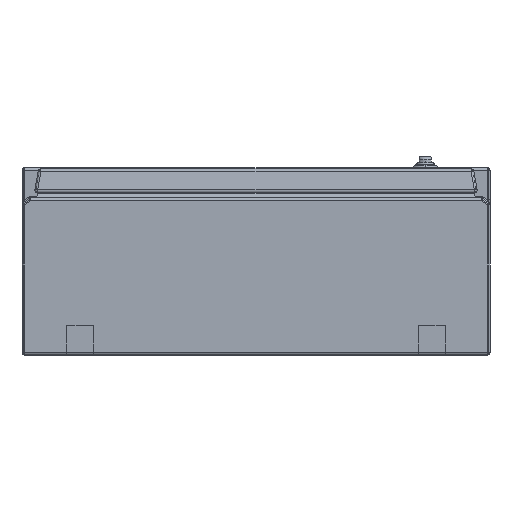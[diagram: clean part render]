
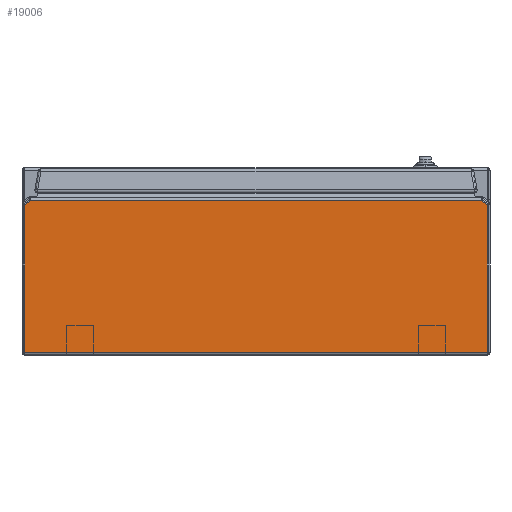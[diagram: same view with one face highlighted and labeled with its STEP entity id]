
A CAD part, front view. The second image highlights one B-rep face of the part: STEP entity #19006.
In plain terms, the highlighted planar face has unit normal (0, -1, 0).
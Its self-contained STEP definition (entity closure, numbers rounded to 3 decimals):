
#86 = ORIENTED_EDGE ( 'NONE', *, *, #1234, .T. ) ;
#654 = LINE ( 'NONE', #10616, #24679 ) ;
#1234 = EDGE_CURVE ( 'NONE', #31828, #7293, #8972, .T. ) ;
#1626 = ORIENTED_EDGE ( 'NONE', *, *, #15396, .T. ) ;
#2430 = DIRECTION ( 'NONE',  ( 1., 0., 0. ) ) ;
#4584 = CARTESIAN_POINT ( 'NONE',  ( 240.485, -247.5, -35. ) ) ;
#4678 = CARTESIAN_POINT ( 'NONE',  ( -240.485, -247.5, -35. ) ) ;
#4887 = PLANE ( 'NONE',  #28647 ) ;
#5343 = VERTEX_POINT ( 'NONE', #28877 ) ;
#6618 = DIRECTION ( 'NONE',  ( 0., 0., -1. ) ) ;
#7002 = VERTEX_POINT ( 'NONE', #27200 ) ;
#7189 = ORIENTED_EDGE ( 'NONE', *, *, #18558, .T. ) ;
#7293 = VERTEX_POINT ( 'NONE', #7584 ) ;
#7485 = LINE ( 'NONE', #17428, #19517 ) ;
#7584 = CARTESIAN_POINT ( 'NONE',  ( -247., -247.5, -39.562 ) ) ;
#8087 = DIRECTION ( 'NONE',  ( -1., 0., 0. ) ) ;
#8972 = LINE ( 'NONE', #18918, #16717 ) ;
#9063 = CARTESIAN_POINT ( 'NONE',  ( 250., -247.5, -197. ) ) ;
#9848 = VERTEX_POINT ( 'NONE', #4584 ) ;
#10616 = CARTESIAN_POINT ( 'NONE',  ( 247., -247.5, -200. ) ) ;
#14811 = CARTESIAN_POINT ( 'NONE',  ( 250., -247.5, -200. ) ) ;
#15396 = EDGE_CURVE ( 'NONE', #24499, #5343, #654, .T. ) ;
#16717 = VECTOR ( 'NONE', #28879, 1000. ) ;
#16788 = EDGE_CURVE ( 'NONE', #5343, #9848, #7485, .T. ) ;
#17428 = CARTESIAN_POINT ( 'NONE',  ( 243.995, -247.5, -37.457 ) ) ;
#18558 = EDGE_CURVE ( 'NONE', #7002, #24499, #31368, .T. ) ;
#18918 = CARTESIAN_POINT ( 'NONE',  ( -247., -247.5, -39.562 ) ) ;
#19006 = ADVANCED_FACE ( 'NONE', ( #27232 ), #4887, .T. ) ;
#19012 = DIRECTION ( 'NONE',  ( 1., 0., 0. ) ) ;
#19015 = LINE ( 'NONE', #28973, #20504 ) ;
#19517 = VECTOR ( 'NONE', #27392, 1000. ) ;
#19521 = VECTOR ( 'NONE', #8087, 1000. ) ;
#20469 = LINE ( 'NONE', #30404, #19521 ) ;
#20504 = VECTOR ( 'NONE', #6618, 1000. ) ;
#20582 = DIRECTION ( 'NONE',  ( 0., 0., 1. ) ) ;
#22462 = CARTESIAN_POINT ( 'NONE',  ( 247., -247.5, -197. ) ) ;
#24499 = VERTEX_POINT ( 'NONE', #22462 ) ;
#24544 = ORIENTED_EDGE ( 'NONE', *, *, #32098, .T. ) ;
#24549 = ORIENTED_EDGE ( 'NONE', *, *, #16788, .T. ) ;
#24679 = VECTOR ( 'NONE', #20582, 1000. ) ;
#24810 = DIRECTION ( 'NONE',  ( 0., -1., 0. ) ) ;
#26437 = EDGE_LOOP ( 'NONE', ( #1626, #24549, #29505, #86, #24544, #7189 ) ) ;
#27200 = CARTESIAN_POINT ( 'NONE',  ( -247., -247.5, -197. ) ) ;
#27232 = FACE_OUTER_BOUND ( 'NONE', #26437, .T. ) ;
#27392 = DIRECTION ( 'NONE',  ( -0.819, 0., 0.574 ) ) ;
#27847 = VECTOR ( 'NONE', #19012, 1000. ) ;
#28647 = AXIS2_PLACEMENT_3D ( 'NONE', #14811, #24810, #2430 ) ;
#28877 = CARTESIAN_POINT ( 'NONE',  ( 247., -247.5, -39.562 ) ) ;
#28879 = DIRECTION ( 'NONE',  ( -0.819, 0., -0.574 ) ) ;
#28973 = CARTESIAN_POINT ( 'NONE',  ( -247., -247.5, -200. ) ) ;
#29202 = EDGE_CURVE ( 'NONE', #9848, #31828, #20469, .T. ) ;
#29505 = ORIENTED_EDGE ( 'NONE', *, *, #29202, .T. ) ;
#30404 = CARTESIAN_POINT ( 'NONE',  ( 250., -247.5, -35. ) ) ;
#31368 = LINE ( 'NONE', #9063, #27847 ) ;
#31828 = VERTEX_POINT ( 'NONE', #4678 ) ;
#32098 = EDGE_CURVE ( 'NONE', #7293, #7002, #19015, .T. ) ;
